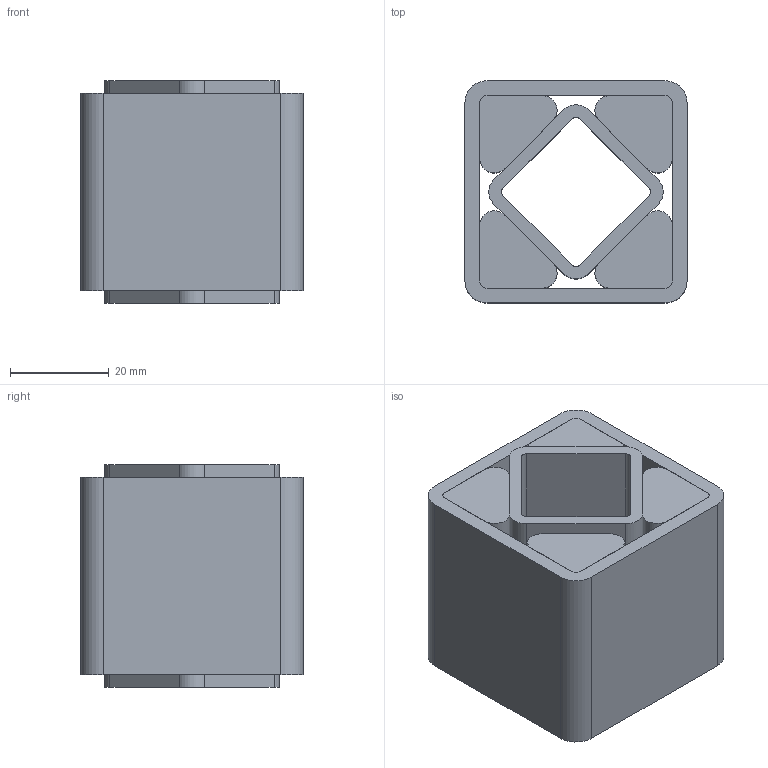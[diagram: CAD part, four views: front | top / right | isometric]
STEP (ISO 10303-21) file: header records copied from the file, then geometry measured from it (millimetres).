
FILE_DESCRIPTION((''),'2;1');
FILE_NAME('D:\ROSTA\Gummifederelemente\3D\DR-S27x40_01021010.stp','2005-02-02T05:14:40',('Administrator'),(''),'Autodesk Inventor 8','Autodesk Inventor 8','');
FILE_SCHEMA(('AUTOMOTIVE_DESIGN { 1 0 10303 214 1 1 1 1 }'));
Length unit declared in the file: millimetre
Products named in the file (4): Baugruppe7; 4.4.3728-001; 4.4.3728-002; 4.4.3728-003
Assembly tree (6 placements, depth 2):
  Baugruppe7
    4.4.3728-001
    4.4.3728-002
    4.4.3728-003  x4
Bounding box: 45 x 45 x 45 mm (x, y, z)
Volume: 58201.8 mm3; surface area: 32750.5 mm2
Topology: 6 solids, 6 shells, 68 faces, 168 edges, 112 vertices
Faces by surface type: plane 40, cylinder 28
Entity records: 1491 total; most frequent: DIRECTION 260, CARTESIAN_POINT 244, ORIENTED_EDGE 228, EDGE_CURVE 114, AXIS2_PLACEMENT_3D 92, VERTEX_POINT 76, VECTOR 76, LINE 76
